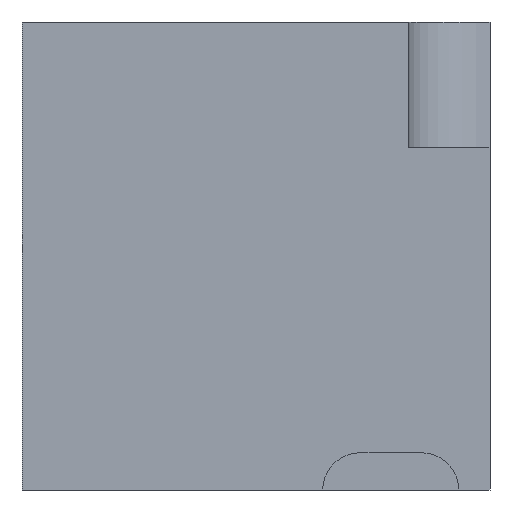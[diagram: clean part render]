
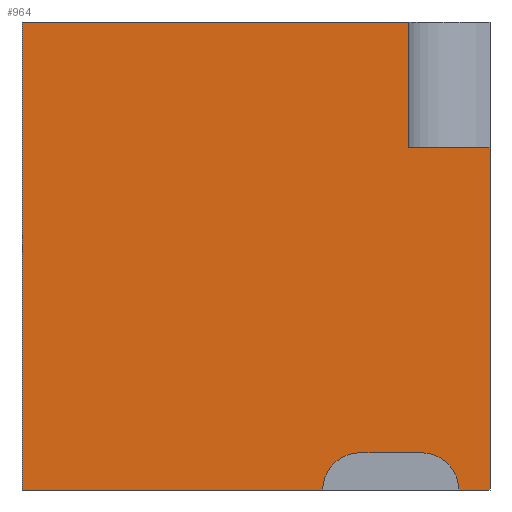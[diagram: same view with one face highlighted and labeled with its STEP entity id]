
A CAD part, front view. The second image highlights one B-rep face of the part: STEP entity #964.
In plain terms, the highlighted planar face has unit normal (0, -1, 0).
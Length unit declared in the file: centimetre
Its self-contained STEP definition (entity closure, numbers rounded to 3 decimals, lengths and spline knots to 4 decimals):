
#6 = CIRCLE ( 'NONE', #668, 79.4941 ) ;
#18 = EDGE_CURVE ( 'NONE', #1145, #653, #523, .T. ) ;
#21 = VERTEX_POINT ( 'NONE', #1062 ) ;
#46 = LINE ( 'NONE', #416, #1105 ) ;
#48 = VERTEX_POINT ( 'NONE', #990 ) ;
#49 = CARTESIAN_POINT ( 'NONE',  ( 0., 0., 0. ) ) ;
#96 = ORIENTED_EDGE ( 'NONE', *, *, #18, .F. ) ;
#151 = EDGE_CURVE ( 'NONE', #877, #1025, #1141, .T. ) ;
#152 = DIRECTION ( 'NONE',  ( 0., 0., -1. ) ) ;
#159 = VECTOR ( 'NONE', #1035, 100. ) ;
#171 = EDGE_CURVE ( 'NONE', #48, #463, #680, .T. ) ;
#190 = PLANE ( 'NONE',  #356 ) ;
#196 = ORIENTED_EDGE ( 'NONE', *, *, #444, .T. ) ;
#239 = CARTESIAN_POINT ( 'NONE',  ( 0., 0., 732.4663 ) ) ;
#241 = VECTOR ( 'NONE', #550, 100. ) ;
#242 = CARTESIAN_POINT ( 'NONE',  ( 0., 0., 0. ) ) ;
#269 = CARTESIAN_POINT ( 'NONE',  ( 933.4153, 0., 0. ) ) ;
#276 = CARTESIAN_POINT ( 'NONE',  ( 853.9212, 0., 0. ) ) ;
#283 = ORIENTED_EDGE ( 'NONE', *, *, #291, .F. ) ;
#291 = EDGE_CURVE ( 'NONE', #653, #344, #924, .T. ) ;
#300 = CARTESIAN_POINT ( 'NONE',  ( 0., 0., 1000. ) ) ;
#319 = CARTESIAN_POINT ( 'NONE',  ( 1000., 0., 0. ) ) ;
#341 = VECTOR ( 'NONE', #938, 100. ) ;
#344 = VERTEX_POINT ( 'NONE', #491 ) ;
#356 = AXIS2_PLACEMENT_3D ( 'NONE', #300, #835, #558 ) ;
#385 = DIRECTION ( 'NONE',  ( 1., 0., 0. ) ) ;
#416 = CARTESIAN_POINT ( 'NONE',  ( 0., 0., 1000. ) ) ;
#444 = EDGE_CURVE ( 'NONE', #557, #344, #698, .T. ) ;
#459 = ORIENTED_EDGE ( 'NONE', *, *, #746, .F. ) ;
#463 = VERTEX_POINT ( 'NONE', #886 ) ;
#477 = ORIENTED_EDGE ( 'NONE', *, *, #151, .F. ) ;
#491 = CARTESIAN_POINT ( 'NONE',  ( 642.5002, 0., 0. ) ) ;
#523 = LINE ( 'NONE', #700, #241 ) ;
#535 = DIRECTION ( 'NONE',  ( 1., 0., 0. ) ) ;
#550 = DIRECTION ( 'NONE',  ( -1., 0., 0. ) ) ;
#557 = VERTEX_POINT ( 'NONE', #892 ) ;
#558 = DIRECTION ( 'NONE',  ( 0., 0., 1. ) ) ;
#572 = CARTESIAN_POINT ( 'NONE',  ( 0., 0., 1000. ) ) ;
#623 = CARTESIAN_POINT ( 'NONE',  ( 1000., 0., 732.4663 ) ) ;
#635 = EDGE_LOOP ( 'NONE', ( #756, #856, #995, #780, #196, #283, #96, #459, #1157, #477 ) ) ;
#653 = VERTEX_POINT ( 'NONE', #864 ) ;
#660 = EDGE_CURVE ( 'NONE', #837, #1025, #1123, .T. ) ;
#668 = AXIS2_PLACEMENT_3D ( 'NONE', #276, #803, #152 ) ;
#680 = LINE ( 'NONE', #755, #341 ) ;
#688 = EDGE_CURVE ( 'NONE', #48, #877, #1051, .T. ) ;
#698 = LINE ( 'NONE', #242, #1055 ) ;
#700 = CARTESIAN_POINT ( 'NONE',  ( 853.9212, 0., 79.4941 ) ) ;
#711 = VECTOR ( 'NONE', #1049, 100. ) ;
#746 = EDGE_CURVE ( 'NONE', #837, #1145, #6, .T. ) ;
#755 = CARTESIAN_POINT ( 'NONE',  ( 826.1595, 0., 732.4663 ) ) ;
#756 = ORIENTED_EDGE ( 'NONE', *, *, #688, .F. ) ;
#772 = CARTESIAN_POINT ( 'NONE',  ( 1000., 0., 1000. ) ) ;
#780 = ORIENTED_EDGE ( 'NONE', *, *, #1135, .T. ) ;
#782 = VECTOR ( 'NONE', #385, 100. ) ;
#790 = AXIS2_PLACEMENT_3D ( 'NONE', #874, #980, #799 ) ;
#799 = DIRECTION ( 'NONE',  ( 0., 0., -1. ) ) ;
#803 = DIRECTION ( 'NONE',  ( 0., -1., 0. ) ) ;
#827 = VECTOR ( 'NONE', #1057, 100. ) ;
#835 = DIRECTION ( 'NONE',  ( 0., 1., 0. ) ) ;
#837 = VERTEX_POINT ( 'NONE', #269 ) ;
#856 = ORIENTED_EDGE ( 'NONE', *, *, #171, .T. ) ;
#864 = CARTESIAN_POINT ( 'NONE',  ( 721.9942, 0., 79.4941 ) ) ;
#866 = DIRECTION ( 'NONE',  ( 0., 0., -1. ) ) ;
#874 = CARTESIAN_POINT ( 'NONE',  ( 721.9942, 0., 0. ) ) ;
#877 = VERTEX_POINT ( 'NONE', #623 ) ;
#886 = CARTESIAN_POINT ( 'NONE',  ( 826.1595, 0., 1000. ) ) ;
#892 = CARTESIAN_POINT ( 'NONE',  ( 0., 0., 0. ) ) ;
#924 = CIRCLE ( 'NONE', #790, 79.4941 ) ;
#938 = DIRECTION ( 'NONE',  ( 0., 0., 1. ) ) ;
#964 = ADVANCED_FACE ( 'NONE', ( #1112 ), #190, .F. ) ;
#980 = DIRECTION ( 'NONE',  ( 0., -1., 0. ) ) ;
#987 = EDGE_CURVE ( 'NONE', #21, #463, #1008, .T. ) ;
#990 = CARTESIAN_POINT ( 'NONE',  ( 826.1595, 0., 732.4663 ) ) ;
#995 = ORIENTED_EDGE ( 'NONE', *, *, #987, .F. ) ;
#1008 = LINE ( 'NONE', #572, #782 ) ;
#1025 = VERTEX_POINT ( 'NONE', #319 ) ;
#1035 = DIRECTION ( 'NONE',  ( 1., 0., 0. ) ) ;
#1049 = DIRECTION ( 'NONE',  ( 0., 0., -1. ) ) ;
#1051 = LINE ( 'NONE', #239, #827 ) ;
#1055 = VECTOR ( 'NONE', #535, 100. ) ;
#1057 = DIRECTION ( 'NONE',  ( 1., 0., 0. ) ) ;
#1062 = CARTESIAN_POINT ( 'NONE',  ( 0., 0., 1000. ) ) ;
#1080 = CARTESIAN_POINT ( 'NONE',  ( 853.9212, 0., 79.4941 ) ) ;
#1105 = VECTOR ( 'NONE', #866, 100. ) ;
#1112 = FACE_OUTER_BOUND ( 'NONE', #635, .T. ) ;
#1123 = LINE ( 'NONE', #49, #159 ) ;
#1135 = EDGE_CURVE ( 'NONE', #21, #557, #46, .T. ) ;
#1141 = LINE ( 'NONE', #772, #711 ) ;
#1145 = VERTEX_POINT ( 'NONE', #1080 ) ;
#1157 = ORIENTED_EDGE ( 'NONE', *, *, #660, .T. ) ;
